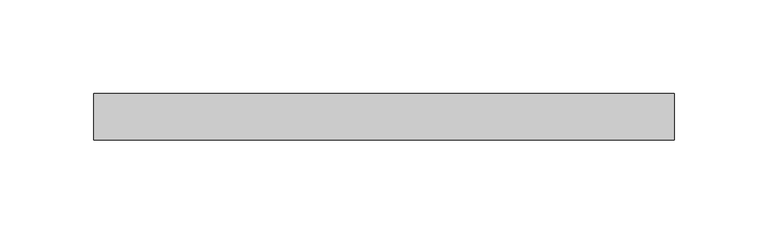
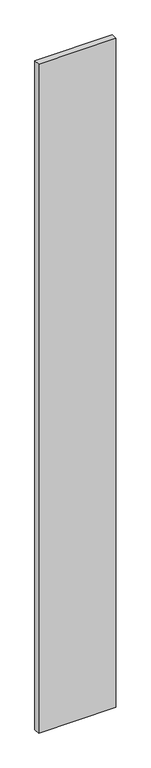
"""IFC4 building model written with IfcOpenShell, lengths in millimetres: plate geometry, 系统嵌板 : 玻璃."""

from ifc_helpers import new_model, si_unit, origin, origin_with_axes, place, context, project, spatial, polyline, outline, extrude, source, transform, mapped, element, save


def plate_2d4e0490(model_context):
    return source(origin(), model_context, "Body", "SweptSolid", [
        extrude(outline(polyline([(154.9999995, -12.5), (-154.9999995, -12.5), (-154.9999995, 12.5), (154.9999995, 12.5), (154.9999995, -12.5)])), origin_with_axes(), (0.0, 0.0, 1.0), 2830.0),
    ])


if __name__ == "__main__":
    model = new_model("IFC4")
    model_context = context("Model", 3, world=origin())
    ifc_project = project(units=[si_unit("LENGTHUNIT", "METRE", prefix="MILLI")], contexts=[model_context])
    site = spatial("IfcSite", under=ifc_project)
    building = spatial("IfcBuilding", under=site)
    placement = place(None, origin())
    plate_shape = plate_2d4e0490(model_context)
    element("IfcPlate", 1, ObjectType="系统嵌板 : 玻璃", at=placement, inside=building, context=model_context, shape_type="MappedRepresentation", body=[
        mapped(plate_shape, transform((0.0, 0.0, 0.0), x_axis=(1.0, 0.0, 0.0), y_axis=(0.0, 1.0, 0.0), z_axis=(0.0, 0.0, 1.0))),
    ])
    save(model, "model.ifc")
